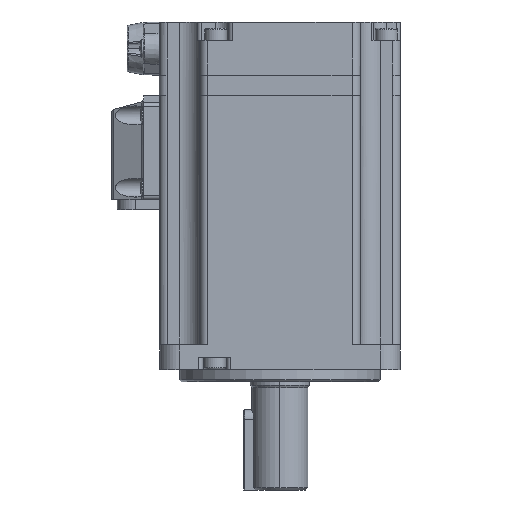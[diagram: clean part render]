
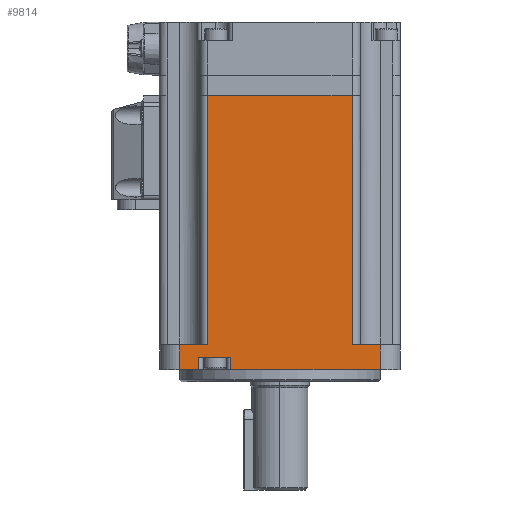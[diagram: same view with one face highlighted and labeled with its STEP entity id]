
A CAD part, left-side view. The second image highlights one B-rep face of the part: STEP entity #9814.
In plain terms, the highlighted planar face has unit normal (-1, 0, 0).
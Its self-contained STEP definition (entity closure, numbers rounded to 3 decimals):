
#294=DIRECTION('',(0.,1.,0.));
#295=VECTOR('',#294,7.);
#296=CARTESIAN_POINT('',(-30.,-25.,-0.2));
#297=LINE('',#296,#295);
#308=DIRECTION('',(0.,0.,1.));
#309=VECTOR('',#308,62.2);
#310=CARTESIAN_POINT('',(-30.,-18.,-0.2));
#311=LINE('',#310,#309);
#312=DIRECTION('',(0.,0.,1.));
#313=VECTOR('',#312,62.2);
#314=CARTESIAN_POINT('',(-30.,18.,-0.2));
#315=LINE('',#314,#313);
#316=DIRECTION('',(0.,0.,-1.));
#317=VECTOR('',#316,6.2);
#318=CARTESIAN_POINT('',(-30.,-25.,-0.2));
#319=LINE('',#318,#317);
#320=DIRECTION('',(0.,1.,0.));
#321=VECTOR('',#320,37.224);
#322=CARTESIAN_POINT('',(-30.,-25.,-6.4));
#323=LINE('',#322,#321);
#324=DIRECTION('',(0.,1.,0.));
#325=VECTOR('',#324,4.776);
#326=CARTESIAN_POINT('',(-30.,20.224,-6.4));
#327=LINE('',#326,#325);
#381=DIRECTION('',(0.,1.,0.));
#382=VECTOR('',#381,7.);
#383=CARTESIAN_POINT('',(-30.,18.,-0.2));
#384=LINE('',#383,#382);
#520=DIRECTION('',(0.,-1.,0.));
#521=VECTOR('',#520,36.);
#522=CARTESIAN_POINT('',(-30.,18.,62.));
#523=LINE('',#522,#521);
#5559=DIRECTION('',(0.,0.,-1.));
#5560=VECTOR('',#5559,6.2);
#5561=CARTESIAN_POINT('',(-30.,25.,-0.2));
#5562=LINE('',#5561,#5560);
#6000=DIRECTION('',(0.,0.,1.));
#6001=VECTOR('',#6000,3.15);
#6002=CARTESIAN_POINT('',(-30.,20.224,-6.4));
#6003=LINE('',#6002,#6001);
#6023=DIRECTION('',(0.,-1.,0.));
#6024=VECTOR('',#6023,8.);
#6025=CARTESIAN_POINT('',(-30.,20.224,-3.25));
#6026=LINE('',#6025,#6024);
#6291=DIRECTION('',(0.,0.,-1.));
#6292=VECTOR('',#6291,3.15);
#6293=CARTESIAN_POINT('',(-30.,12.224,-3.25));
#6294=LINE('',#6293,#6292);
#8846=CARTESIAN_POINT('',(-30.,25.,-6.4));
#8848=VERTEX_POINT('',#8846);
#8849=CARTESIAN_POINT('',(-30.,20.224,-6.4));
#8851=VERTEX_POINT('',#8849);
#8858=CARTESIAN_POINT('',(-30.,12.224,-6.4));
#8860=VERTEX_POINT('',#8858);
#8861=CARTESIAN_POINT('',(-30.,-25.,-6.4));
#8863=VERTEX_POINT('',#8861);
#8923=CARTESIAN_POINT('',(-30.,-25.,-0.2));
#8924=VERTEX_POINT('',#8923);
#8927=CARTESIAN_POINT('',(-30.,25.,-0.2));
#8928=VERTEX_POINT('',#8927);
#8938=CARTESIAN_POINT('',(-30.,18.,-0.2));
#8940=VERTEX_POINT('',#8938);
#8977=CARTESIAN_POINT('',(-30.,-18.,-0.2));
#8979=VERTEX_POINT('',#8977);
#9058=CARTESIAN_POINT('',(-30.,20.224,-3.25));
#9060=VERTEX_POINT('',#9058);
#9061=CARTESIAN_POINT('',(-30.,12.224,-3.25));
#9062=VERTEX_POINT('',#9061);
#9311=CARTESIAN_POINT('',(-30.,18.,62.));
#9312=VERTEX_POINT('',#9311);
#9313=CARTESIAN_POINT('',(-30.,-18.,62.));
#9314=VERTEX_POINT('',#9313);
#9785=CARTESIAN_POINT('',(-30.,0.,-3.2));
#9786=DIRECTION('',(1.,0.,0.));
#9787=DIRECTION('',(0.,-1.,0.));
#9788=AXIS2_PLACEMENT_3D('',#9785,#9786,#9787);
#9789=PLANE('',#9788);
#9791=ORIENTED_EDGE('',*,*,#9790,.T.);
#9793=ORIENTED_EDGE('',*,*,#9792,.T.);
#9794=ORIENTED_EDGE('',*,*,#9773,.F.);
#9795=ORIENTED_EDGE('',*,*,#9757,.F.);
#9797=ORIENTED_EDGE('',*,*,#9796,.T.);
#9799=ORIENTED_EDGE('',*,*,#9798,.T.);
#9801=ORIENTED_EDGE('',*,*,#9800,.F.);
#9803=ORIENTED_EDGE('',*,*,#9802,.F.);
#9805=ORIENTED_EDGE('',*,*,#9804,.F.);
#9807=ORIENTED_EDGE('',*,*,#9806,.T.);
#9809=ORIENTED_EDGE('',*,*,#9808,.F.);
#9811=ORIENTED_EDGE('',*,*,#9810,.F.);
#9812=EDGE_LOOP('',(#9791,#9793,#9794,#9795,#9797,#9799,#9801,#9803,#9805,#9807,
#9809,#9811));
#9813=FACE_OUTER_BOUND('',#9812,.F.);
#9814=ADVANCED_FACE('',(#9813),#9789,.F.);
#9757=EDGE_CURVE('',#8924,#8979,#297,.T.);
#9773=EDGE_CURVE('',#8979,#9314,#311,.T.);
#9790=EDGE_CURVE('',#8940,#9312,#315,.T.);
#9792=EDGE_CURVE('',#9312,#9314,#523,.T.);
#9796=EDGE_CURVE('',#8924,#8863,#319,.T.);
#9798=EDGE_CURVE('',#8863,#8860,#323,.T.);
#9800=EDGE_CURVE('',#9062,#8860,#6294,.T.);
#9802=EDGE_CURVE('',#9060,#9062,#6026,.T.);
#9804=EDGE_CURVE('',#8851,#9060,#6003,.T.);
#9806=EDGE_CURVE('',#8851,#8848,#327,.T.);
#9808=EDGE_CURVE('',#8928,#8848,#5562,.T.);
#9810=EDGE_CURVE('',#8940,#8928,#384,.T.);
